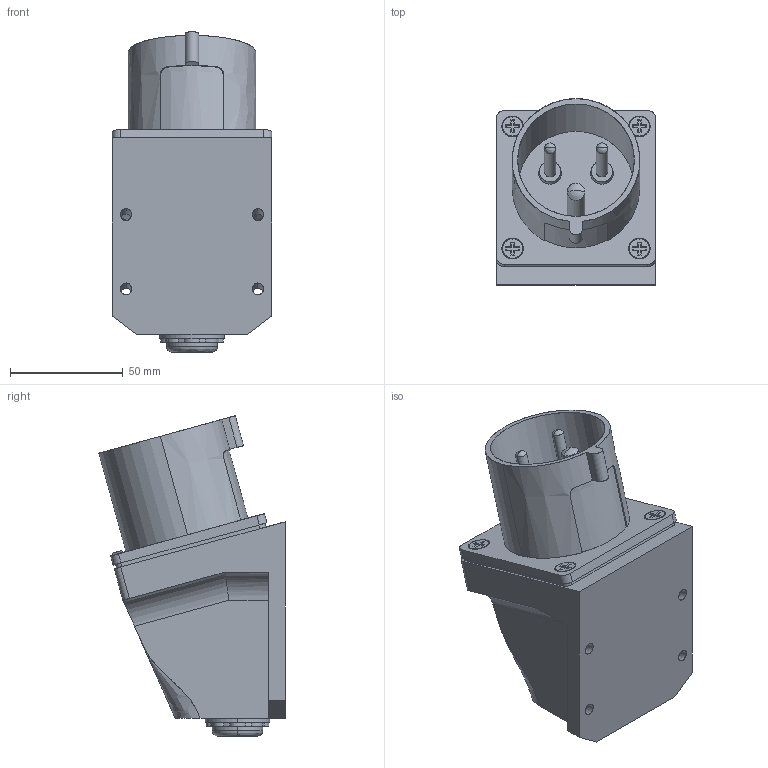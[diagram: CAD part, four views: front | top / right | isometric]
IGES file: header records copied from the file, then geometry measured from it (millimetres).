
Start section: SolidWorks IGES file using analytic representation for surfaces
Global section: file name: D:\X - Arquivos\PROEX\Empresas\P11 - METALTEX\01 - Produtos\IGES\4ª remessa\2ª etapa\TLM32432.IGS; native system: SolidWorks 2012; preprocessor: SolidWorks 2012; author: Usuario; date: 180405.175052; units: millimetre
Bounding box: 71 x 82.62 x 142.28 mm (x, y, z)
Surface area: 74499.6 mm2 (no closed solid volume)
Topology: 0 solids, 0 shells, 537 faces, 8378 edges, 8372 vertices
Faces by surface type: bspline 327, revolution 210
